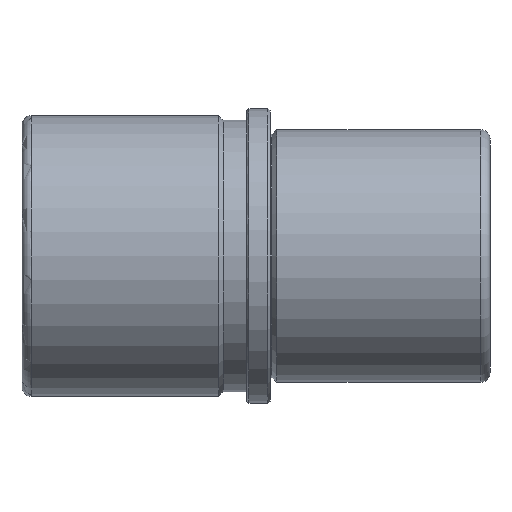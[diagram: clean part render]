
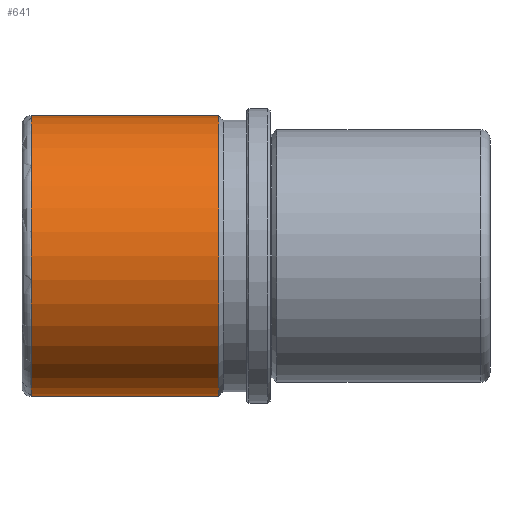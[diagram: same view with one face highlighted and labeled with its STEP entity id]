
A CAD part, front view. The second image highlights one B-rep face of the part: STEP entity #641.
In plain terms, the highlighted cylindrical face has radius 30 mm (diameter 60 mm), a partial arc.
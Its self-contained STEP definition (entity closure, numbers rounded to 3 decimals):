
#426=CARTESIAN_POINT('Line Origine',(47.,0.,30.)) ;
#430=CARTESIAN_POINT('Vertex',(-11.,0.,30.)) ;
#432=CARTESIAN_POINT('Vertex',(-51.,0.,30.)) ;
#446=CARTESIAN_POINT('Vertex',(-11.,0.,-30.)) ;
#449=CARTESIAN_POINT('Line Origine',(47.,0.,-30.)) ;
#453=CARTESIAN_POINT('Vertex',(-51.,0.,-30.)) ;
#604=CARTESIAN_POINT('Axis2P3D Location',(47.,0.,0.)) ;
#609=CARTESIAN_POINT('Axis2P3D Location',(-11.,0.,0.)) ;
#613=CARTESIAN_POINT('Vertex',(-11.,-30.,0.)) ;
#616=CARTESIAN_POINT('Axis2P3D Location',(-11.,0.,0.)) ;
#621=CARTESIAN_POINT('Axis2P3D Location',(-51.,0.,0.)) ;
#625=CARTESIAN_POINT('Vertex',(-51.,-30.,0.)) ;
#628=CARTESIAN_POINT('Axis2P3D Location',(-51.,0.,0.)) ;
#427=DIRECTION('Vector Direction',(-1.,0.,0.)) ;
#450=DIRECTION('Vector Direction',(-1.,0.,0.)) ;
#605=DIRECTION('Axis2P3D Direction',(-1.,-0.,-0.)) ;
#606=DIRECTION('Axis2P3D XDirection',(0.,0.,-1.)) ;
#610=DIRECTION('Axis2P3D Direction',(-1.,-0.,-0.)) ;
#617=DIRECTION('Axis2P3D Direction',(-1.,-0.,-0.)) ;
#622=DIRECTION('Axis2P3D Direction',(-1.,-0.,-0.)) ;
#629=DIRECTION('Axis2P3D Direction',(-1.,-0.,-0.)) ;
#607=AXIS2_PLACEMENT_3D('Cylinder Axis2P3D',#604,#605,#606) ;
#611=AXIS2_PLACEMENT_3D('Circle Axis2P3D',#609,#610,$) ;
#618=AXIS2_PLACEMENT_3D('Circle Axis2P3D',#616,#617,$) ;
#623=AXIS2_PLACEMENT_3D('Circle Axis2P3D',#621,#622,$) ;
#630=AXIS2_PLACEMENT_3D('Circle Axis2P3D',#628,#629,$) ;
#634=ORIENTED_EDGE('',*,*,#455,.T.) ;
#635=ORIENTED_EDGE('',*,*,#615,.F.) ;
#636=ORIENTED_EDGE('',*,*,#620,.F.) ;
#637=ORIENTED_EDGE('',*,*,#434,.T.) ;
#638=ORIENTED_EDGE('',*,*,#627,.T.) ;
#639=ORIENTED_EDGE('',*,*,#632,.T.) ;
#428=VECTOR('Line Direction',#427,1.) ;
#451=VECTOR('Line Direction',#450,1.) ;
#641=ADVANCED_FACE('FAMO-SF1-D40 x 100',(#640),#608,.T.) ;
#612=CIRCLE('generated circle',#611,30.) ;
#619=CIRCLE('generated circle',#618,30.) ;
#624=CIRCLE('generated circle',#623,30.) ;
#631=CIRCLE('generated circle',#630,30.) ;
#608=CYLINDRICAL_SURFACE('generated cylinder',#607,30.) ;
#434=EDGE_CURVE('',#431,#433,#429,.T.) ;
#455=EDGE_CURVE('',#454,#447,#452,.F.) ;
#615=EDGE_CURVE('',#614,#447,#612,.F.) ;
#620=EDGE_CURVE('',#431,#614,#619,.F.) ;
#627=EDGE_CURVE('',#433,#626,#624,.F.) ;
#632=EDGE_CURVE('',#626,#454,#631,.F.) ;
#633=EDGE_LOOP('',(#634,#635,#636,#637,#638,#639)) ;
#640=FACE_OUTER_BOUND('',#633,.T.) ;
#429=LINE('Line',#426,#428) ;
#452=LINE('Line',#449,#451) ;
#431=VERTEX_POINT('',#430) ;
#433=VERTEX_POINT('',#432) ;
#447=VERTEX_POINT('',#446) ;
#454=VERTEX_POINT('',#453) ;
#614=VERTEX_POINT('',#613) ;
#626=VERTEX_POINT('',#625) ;
